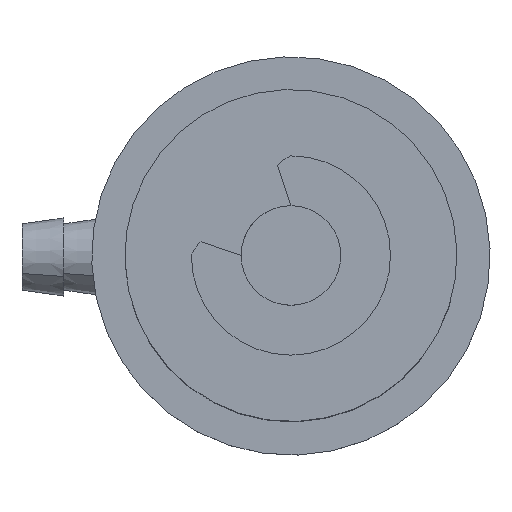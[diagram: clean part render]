
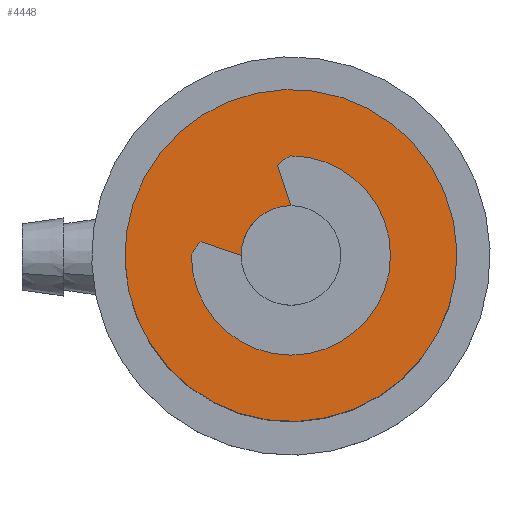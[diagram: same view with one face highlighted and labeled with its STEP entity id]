
A CAD part, top view. The second image highlights one B-rep face of the part: STEP entity #4448.
In plain terms, the highlighted planar face has unit normal (0, 0, 1).
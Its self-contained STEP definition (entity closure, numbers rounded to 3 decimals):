
#368 = EDGE_CURVE ( 'NONE', #9271, #10068, #6416, .T. ) ;
#611 = PLANE ( 'NONE',  #4057 ) ;
#1848 = FACE_BOUND ( 'NONE', #4420, .T. ) ;
#2055 = DIRECTION ( 'NONE',  ( 0., 0., 1. ) ) ;
#2218 = AXIS2_PLACEMENT_3D ( 'NONE', #7726, #7826, #7985 ) ;
#3437 = EDGE_CURVE ( 'NONE', #10068, #9271, #6105, .T. ) ;
#4000 = DIRECTION ( 'NONE',  ( 0., 0., 1. ) ) ;
#4057 = AXIS2_PLACEMENT_3D ( 'NONE', #4990, #11006, #5837 ) ;
#4420 = EDGE_LOOP ( 'NONE', ( #6272, #6260 ) ) ;
#4448 = ADVANCED_FACE ( 'NONE', ( #1848, #8458 ), #611, .T. ) ;
#4555 = CARTESIAN_POINT ( 'NONE',  ( 4.95, 1.234, 31.5 ) ) ;
#4965 = CIRCLE ( 'NONE', #7651, 3. ) ;
#4990 = CARTESIAN_POINT ( 'NONE',  ( -3.405, -13.075, 31.5 ) ) ;
#5046 = EDGE_CURVE ( 'NONE', #9882, #5346, #4965, .T. ) ;
#5203 = CARTESIAN_POINT ( 'NONE',  ( -7.097, -3.651, 31.5 ) ) ;
#5346 = VERTEX_POINT ( 'NONE', #4555 ) ;
#5649 = ORIENTED_EDGE ( 'NONE', *, *, #3437, .T. ) ;
#5837 = DIRECTION ( 'NONE',  ( 0.927, 0.376, 0. ) ) ;
#6105 = CIRCLE ( 'NONE', #2218, 10. ) ;
#6260 = ORIENTED_EDGE ( 'NONE', *, *, #5046, .F. ) ;
#6272 = ORIENTED_EDGE ( 'NONE', *, *, #11171, .F. ) ;
#6416 = CIRCLE ( 'NONE', #6554, 10. ) ;
#6554 = AXIS2_PLACEMENT_3D ( 'NONE', #10216, #8213, #10694 ) ;
#7234 = CARTESIAN_POINT ( 'NONE',  ( 2.17, 0.107, 31.5 ) ) ;
#7651 = AXIS2_PLACEMENT_3D ( 'NONE', #7234, #2055, #8085 ) ;
#7726 = CARTESIAN_POINT ( 'NONE',  ( 2.17, 0.107, 31.5 ) ) ;
#7826 = DIRECTION ( 'NONE',  ( 0., 0., 1. ) ) ;
#7846 = AXIS2_PLACEMENT_3D ( 'NONE', #9145, #4000, #10004 ) ;
#7911 = ORIENTED_EDGE ( 'NONE', *, *, #368, .T. ) ;
#7970 = EDGE_LOOP ( 'NONE', ( #7911, #5649 ) ) ;
#7985 = DIRECTION ( 'NONE',  ( -0.927, -0.376, 0. ) ) ;
#8085 = DIRECTION ( 'NONE',  ( 0.927, 0.376, 0. ) ) ;
#8213 = DIRECTION ( 'NONE',  ( 0., 0., 1. ) ) ;
#8458 = FACE_OUTER_BOUND ( 'NONE', #7970, .T. ) ;
#9145 = CARTESIAN_POINT ( 'NONE',  ( 2.17, 0.107, 31.5 ) ) ;
#9271 = VERTEX_POINT ( 'NONE', #5203 ) ;
#9772 = CARTESIAN_POINT ( 'NONE',  ( 11.437, 3.865, 31.5 ) ) ;
#9882 = VERTEX_POINT ( 'NONE', #10903 ) ;
#10004 = DIRECTION ( 'NONE',  ( 0.927, 0.376, 0. ) ) ;
#10068 = VERTEX_POINT ( 'NONE', #9772 ) ;
#10216 = CARTESIAN_POINT ( 'NONE',  ( 2.17, 0.107, 31.5 ) ) ;
#10694 = DIRECTION ( 'NONE',  ( -0.927, -0.376, 0. ) ) ;
#10903 = CARTESIAN_POINT ( 'NONE',  ( -0.61, -1.021, 31.5 ) ) ;
#10908 = CIRCLE ( 'NONE', #7846, 3. ) ;
#11006 = DIRECTION ( 'NONE',  ( 0., 0., 1. ) ) ;
#11171 = EDGE_CURVE ( 'NONE', #5346, #9882, #10908, .T. ) ;
